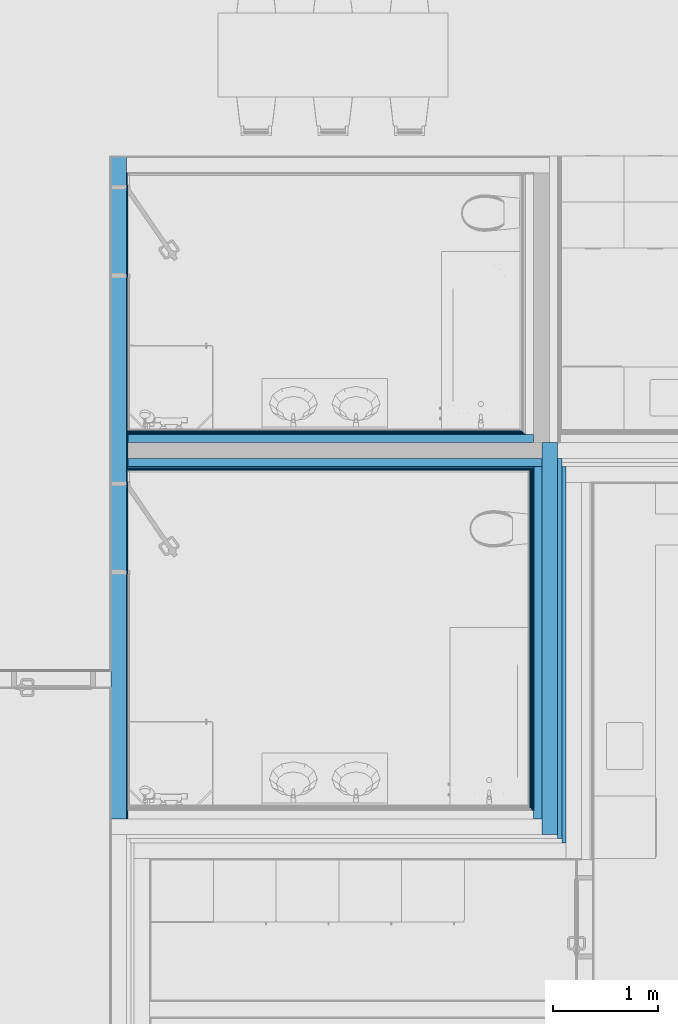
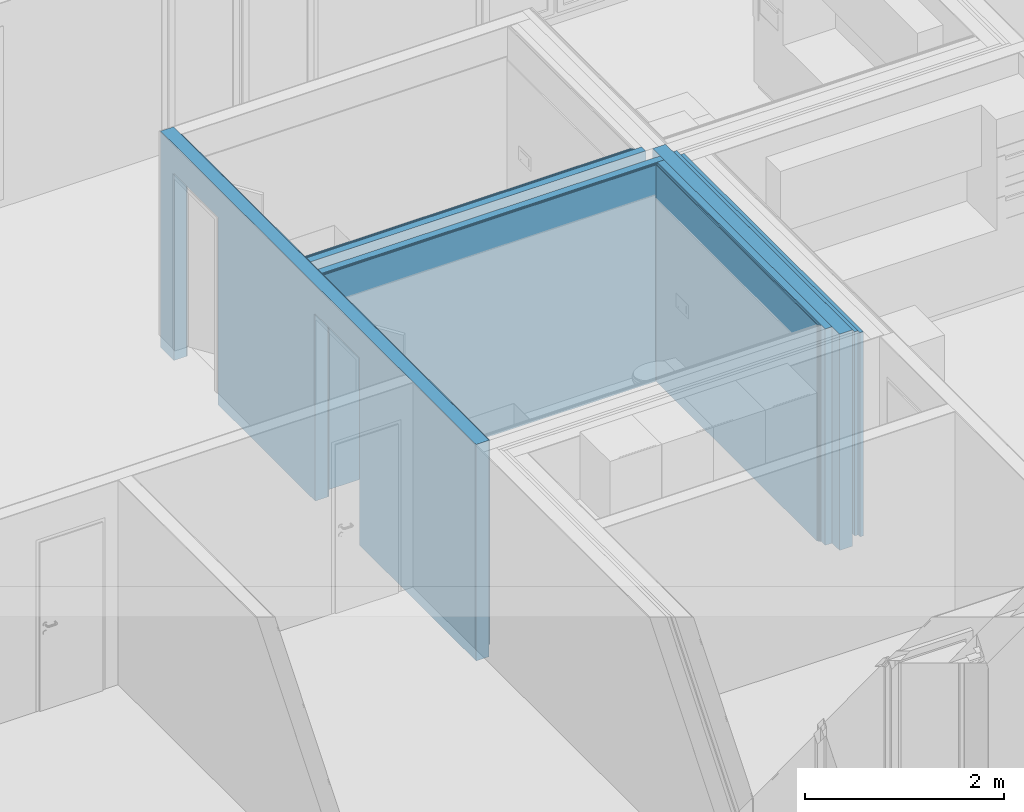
# One storey, part 8 of 34: 17 building element parts, 2 openings, 6 elements without a shape of their own.
"""IFC4 building model written with IfcOpenShell, lengths in millimetres."""

from ifc_helpers import new_model, entity, si_unit, converted_unit, derived_unit, direction, frame, origin_with_axes, place, context, subcontext, project, spatial, polygons, material, type_object, element, aggregate, save


model = new_model("IFC4")

# Units and contexts
model_context = context("Model", 3, precision=0.01, world=origin_with_axes(), true_north=direction((0.0, 1.0)))
body_context = subcontext(model_context, "Body", "Model", "MODEL_VIEW")
ifc_project = project(units=[si_unit("LENGTHUNIT", "METRE", prefix="MILLI"), si_unit("AREAUNIT", "SQUARE_METRE"), si_unit("VOLUMEUNIT", "CUBIC_METRE"), converted_unit("PLANEANGLEUNIT", "DEGREE", entity("IfcPlaneAngleMeasure", 0.0174532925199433), si_unit("PLANEANGLEUNIT", "RADIAN"), dimensions=[0, 0, 0, 0, 0, 0, 0]), converted_unit("TIMEUNIT", "Year", entity("IfcTimeMeasure", 31557600.0), si_unit("TIMEUNIT", "SECOND"), dimensions=[0, 0, 1, 0, 0, 0, 0]), si_unit("MASSUNIT", "GRAM", prefix="KILO"), si_unit("THERMODYNAMICTEMPERATUREUNIT", "DEGREE_CELSIUS"), si_unit("LUMINOUSINTENSITYUNIT", "LUMEN"), si_unit("ENERGYUNIT", "JOULE", prefix="MEGA"), derived_unit("THERMALCONDUCTANCEUNIT", [(si_unit("POWERUNIT", "WATT"), 1), (si_unit("LENGTHUNIT", "METRE"), -1), (si_unit("THERMODYNAMICTEMPERATUREUNIT", "KELVIN"), -1)]), derived_unit("SPECIFICHEATCAPACITYUNIT", [(si_unit("ENERGYUNIT", "JOULE"), 1), (si_unit("MASSUNIT", "GRAM", prefix="KILO"), -1), (si_unit("THERMODYNAMICTEMPERATUREUNIT", "KELVIN"), -1)]), derived_unit("MASSDENSITYUNIT", [(si_unit("MASSUNIT", "GRAM", prefix="KILO"), 1), (si_unit("VOLUMEUNIT", "CUBIC_METRE"), -1)])], contexts=[model_context])

# Site, building, storey
site_placement = place(None, origin_with_axes())
site = spatial("IfcSite", under=ifc_project, at=site_placement, Name="Gelände", CompositionType="ELEMENT")
building_placement = place(site_placement, origin_with_axes())
building = spatial("IfcBuilding", under=site, at=building_placement, Name="Gebäude", CompositionType="ELEMENT")
storey_placement = place(building_placement, frame((0.0, 0.0, 2900.0), z_axis=(0.0, 0.0, 1.0), x_axis=(1.0, 0.0, 0.0)))
storey = spatial("IfcBuildingStorey", under=building, at=storey_placement, Name="1.OG", CompositionType="ELEMENT", Elevation=2900.0)

# Wall, building element parts
wall_type_1 = type_object("IfcWallType", Name="Vorsatzschale 01 115", PredefinedType="NOTDEFINED")
wall_1_placement = place(storey_placement, frame((4130.995818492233, 31697.59728131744, 0.0), z_axis=(0.0, 0.0, 1.0), x_axis=(0.0, -1.0, 0.0)))
wall_1 = element("IfcWall", 1, at=wall_1_placement, inside=storey, type_object=wall_type_1, Name="Wand-014", PredefinedType="NOTDEFINED")
ifc_material_1 = material(Name="Gipskartonplatte GKP")
building_element_part_1_placement = place(wall_1_placement, origin_with_axes())
building_element_part_1 = element("IfcBuildingElementPart", 2, at=building_element_part_1_placement, material=ifc_material_1, Name="Gipskartonplatte GKP", PredefinedType="NOTDEFINED", context=body_context, shape_type="Tessellation", body=[
    polygons([(3253.223895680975, 22.50000000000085, 0.0), (-22.50000000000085, 22.49999999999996, 0.0), (-22.50000000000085, 35.00000000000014, 0.0), (3253.223895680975, 35.00000000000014, 0.0), (3253.223895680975, 22.50000000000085, 2649.999948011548), (-22.50000000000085, 22.49999999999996, 2649.999948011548), (-22.50000000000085, 35.00000000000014, 2649.999948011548), (3253.223895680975, 35.00000000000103, 2649.999948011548)], [[[1, 2, 3, 4]], [[5, 6, 2, 1]], [[3, 2, 6, 7]], [[4, 3, 7, 8]], [[4, 8, 5, 1]], [[8, 7, 6, 5]]], closed=True),
])
building_element_part_2_placement = place(wall_1_placement, origin_with_axes())
building_element_part_2 = element("IfcBuildingElementPart", 3, at=building_element_part_2_placement, material=ifc_material_1, Name="Gipskartonplatte GKP", PredefinedType="NOTDEFINED", context=body_context, shape_type="Tessellation", body=[
    polygons([(3240.723895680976, 10.00000000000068, 0.0), (-10.00000000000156, 9.999999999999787, 0.0), (-10.00000000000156, 22.49999999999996, 0.0), (3240.723895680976, 22.50000000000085, 0.0), (3240.723895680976, 10.00000000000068, 2649.999948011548), (-10.00000000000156, 9.999999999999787, 2649.999948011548), (-10.00000000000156, 22.49999999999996, 2649.999948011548), (3240.723895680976, 22.50000000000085, 2649.999948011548)], [[[1, 2, 3, 4]], [[5, 6, 2, 1]], [[3, 2, 6, 7]], [[4, 3, 7, 8]], [[4, 8, 5, 1]], [[8, 7, 6, 5]]], closed=True),
])
ifc_material_2 = material(Name="Kalkzementputz Aussen")
building_element_part_3_placement = place(wall_1_placement, origin_with_axes())
building_element_part_3 = element("IfcBuildingElementPart", 4, at=building_element_part_3_placement, material=ifc_material_2, Name="Kalkzementputz Aussen", PredefinedType="NOTDEFINED", context=body_context, shape_type="Tessellation", body=[
    polygons([(3228.223895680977, 0.0, 0.0), (0.0, 0.0, 0.0), (0.0, 9.999999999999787, 0.0), (3228.223895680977, 10.00000000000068, 0.0), (3228.223895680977, 0.0, 2649.999948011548), (0.0, 0.0, 2649.999948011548), (0.0, 9.999999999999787, 2649.999948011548), (3228.223895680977, 10.00000000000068, 2649.999948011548)], [[[1, 2, 3, 4]], [[5, 6, 2, 1]], [[3, 2, 6, 7]], [[4, 3, 7, 8]], [[4, 8, 5, 1]], [[8, 7, 6, 5]]], closed=True),
])

wall_2_placement = place(storey_placement, frame((4130.995818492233, 31697.59728131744, 0.0), z_axis=(0.0, 0.0, 1.0), x_axis=(-1.0, 0.0, 0.0)))
wall_2 = element("IfcWall", 5, at=wall_2_placement, inside=storey, type_object=wall_type_1, Name="Wand-014", PredefinedType="NOTDEFINED")
building_element_part_4_placement = place(wall_2_placement, origin_with_axes())
building_element_part_4 = element("IfcBuildingElementPart", 6, at=building_element_part_4_placement, material=ifc_material_2, Name="Kalkzementputz Aussen", PredefinedType="NOTDEFINED", context=body_context, shape_type="Tessellation", body=[
    polygons([(-9.999999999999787, -10.00000000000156, 2649.999948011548), (3848.000000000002, -10.00000000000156, 2649.999948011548), (3848.000000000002, 0.0, 2649.999948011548), (-9.999999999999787, 0.0, 2649.999948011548), (-9.999999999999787, -10.00000000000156, 0.0), (3848.000000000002, -10.00000000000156, 0.0), (3848.000000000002, 0.0, 0.0), (-9.999999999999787, 0.0, 0.0)], [[[1, 2, 3, 4]], [[5, 6, 2, 1]], [[3, 2, 6, 7]], [[4, 3, 7, 8]], [[5, 1, 4, 8]], [[8, 7, 6, 5]]], closed=True),
])
building_element_part_5_placement = place(wall_2_placement, origin_with_axes())
building_element_part_5 = element("IfcBuildingElementPart", 7, at=building_element_part_5_placement, material=ifc_material_1, Name="Gipskartonplatte GKP", PredefinedType="NOTDEFINED", context=body_context, shape_type="Tessellation", body=[
    polygons([(3848.000000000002, -22.50000000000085, 2649.999948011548), (3848.000000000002, -10.00000000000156, 2649.999948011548), (-22.49999999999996, -10.00000000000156, 2649.999948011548), (-22.49999999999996, -22.50000000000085, 2649.999948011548), (3848.000000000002, -22.50000000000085, 0.0), (3848.000000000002, -10.00000000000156, 0.0), (-22.49999999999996, -10.00000000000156, 0.0), (-22.49999999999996, -22.50000000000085, 0.0)], [[[1, 2, 3, 4]], [[1, 5, 6, 2]], [[2, 6, 7, 3]], [[4, 3, 7, 8]], [[5, 1, 4, 8]], [[6, 5, 8, 7]]], closed=True),
])
building_element_part_6_placement = place(wall_2_placement, origin_with_axes())
building_element_part_6 = element("IfcBuildingElementPart", 8, at=building_element_part_6_placement, material=ifc_material_1, Name="Gipskartonplatte GKP", PredefinedType="NOTDEFINED", context=body_context, shape_type="Tessellation", body=[
    polygons([(3848.000000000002, -35.00000000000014, 2649.999948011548), (3848.000000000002, -22.50000000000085, 2649.999948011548), (-35.00000000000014, -22.50000000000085, 2649.999948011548), (-35.00000000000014, -35.00000000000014, 2649.999948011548), (3848.000000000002, -35.00000000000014, 0.0), (3848.000000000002, -22.50000000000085, 0.0), (-35.00000000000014, -22.50000000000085, 0.0), (-35.00000000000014, -35.00000000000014, 0.0)], [[[1, 2, 3, 4]], [[1, 5, 6, 2]], [[2, 6, 7, 3]], [[4, 3, 7, 8]], [[5, 1, 4, 8]], [[6, 5, 8, 7]]], closed=True),
])
ifc_material_3 = material(Name="Ständer Konstruktion gedämmt")
building_element_part_7_placement = place(wall_2_placement, origin_with_axes())
building_element_part_7 = element("IfcBuildingElementPart", 9, at=building_element_part_7_placement, material=ifc_material_3, Name="Ständer Konstruktion gedämmt", PredefinedType="NOTDEFINED", context=body_context, shape_type="Tessellation", body=[
    polygons([(3848.000000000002, -114.9999999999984, 2649.999948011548), (3848.000000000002, -35.00000000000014, 2649.999948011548), (-115.0000000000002, -35.00000000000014, 2649.999948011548), (-115.0000000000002, -114.9999999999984, 2649.999948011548), (3848.000000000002, -115.000000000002, 0.0), (3848.000000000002, -35.00000000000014, 0.0), (-115.0000000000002, -35.00000000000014, 0.0), (-115.0000000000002, -114.9999999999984, 0.0)], [[[1, 2, 3, 4]], [[1, 5, 6, 2]], [[2, 6, 7, 3]], [[4, 3, 7, 8]], [[5, 1, 4, 8]], [[6, 5, 8, 7]]], closed=True),
])
aggregate(wall_2, [building_element_part_4, building_element_part_5, building_element_part_6, building_element_part_7])

# Building element part
building_element_part_8_placement = place(wall_1_placement, origin_with_axes())
building_element_part_8 = element("IfcBuildingElementPart", 10, at=building_element_part_8_placement, material=ifc_material_3, Name="Ständer Konstruktion gedämmt", PredefinedType="NOTDEFINED", context=body_context, shape_type="Tessellation", body=[
    polygons([(3333.223895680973, 35.00000000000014, 0.0), (-35.00000000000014, 35.00000000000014, 0.0), (-35.00000000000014, 115.0000000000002, 0.0), (3333.223895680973, 115.0000000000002, 0.0), (3333.223895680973, 35.00000000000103, 2649.999948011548), (-35.00000000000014, 35.00000000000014, 2649.999948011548), (-35.00000000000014, 115.0000000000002, 2649.999948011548), (3333.223895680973, 115.0000000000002, 2649.999948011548)], [[[1, 2, 3, 4]], [[5, 6, 2, 1]], [[3, 2, 6, 7]], [[4, 3, 7, 8]], [[4, 8, 5, 1]], [[8, 7, 6, 5]]], closed=True),
])

aggregate(wall_1, [building_element_part_1, building_element_part_2, building_element_part_3, building_element_part_8])

# Wall, building element parts
wall_type_2 = type_object("IfcWallType", Name="Trennwand Typ 02 - kein Putz 190", PredefinedType="NOTDEFINED")
wall_3_placement = place(storey_placement, frame((4245.995818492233, 31962.59728131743, 0.0), z_axis=(0.0, 0.0, 1.0), x_axis=(0.0, -1.0, 0.0)))
wall_3 = element("IfcWall", 11, at=wall_3_placement, inside=storey, type_object=wall_type_2, Name="Wand-015", PredefinedType="NOTDEFINED")
ifc_material_4 = material(Name="Dämmung Innen")
building_element_part_9_placement = place(wall_3_placement, origin_with_axes())
building_element_part_9 = element("IfcBuildingElementPart", 12, at=building_element_part_9_placement, material=ifc_material_4, Name="Dämmung Innen", PredefinedType="NOTDEFINED", context=body_context, shape_type="Tessellation", body=[
    polygons([(3788.223895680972, 190.0000000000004, 149.9999999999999), (149.9999999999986, 190.0000000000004, 149.9999999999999), (149.9999999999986, 190.0000000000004, 2649.999948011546), (3788.223895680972, 190.0000000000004, 2649.999948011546), (149.9999999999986, 150.0000000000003, 149.9999999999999), (3788.223895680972, 150.0000000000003, 149.9999999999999), (149.9999999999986, 150.0000000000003, 2649.999948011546), (3788.223895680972, 150.0000000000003, 2649.999948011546)], [[[1, 2, 3, 4]], [[5, 2, 1, 6]], [[2, 5, 7, 3]], [[8, 4, 3, 7]], [[6, 1, 4, 8]], [[5, 6, 8, 7]]], closed=True),
])
ifc_material_5 = material(Name="MW, Backstein")
building_element_part_10_placement = place(wall_3_placement, origin_with_axes())
building_element_part_10 = element("IfcBuildingElementPart", 13, at=building_element_part_10_placement, material=ifc_material_5, Name="MW, Backstein", PredefinedType="NOTDEFINED", context=body_context, shape_type="Tessellation", body=[
    polygons([(3748.223895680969, 150.0000000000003, 0.0), (3748.223895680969, 0.0, 0.0), (0.0, 0.0, 0.0), (0.0, 150.0000000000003, 0.0), (3748.223895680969, 150.0000000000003, 2649.999948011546), (3748.223895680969, 0.0, 2649.999948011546), (0.0, 0.0, 2649.999948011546), (0.0, 150.0000000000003, 2649.999948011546)], [[[1, 2, 3, 4]], [[2, 1, 5, 6]], [[2, 6, 7, 3]], [[8, 4, 3, 7]], [[5, 1, 4, 8]], [[6, 5, 8, 7]]], closed=True),
])
aggregate(wall_3, [building_element_part_9, building_element_part_10])

# Wall, building element part
wall_4_placement = place(storey_placement, frame((4625.995818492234, 31582.59728131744, 0.0), z_axis=(0.0, 0.0, 1.0), x_axis=(0.0, -1.0, 0.0)))
wall_4 = element("IfcWall", 14, at=wall_4_placement, inside=storey, type_object=wall_type_2, Name="Wand-015", PredefinedType="NOTDEFINED")
building_element_part_11_placement = place(wall_4_placement, origin_with_axes())
building_element_part_11 = element("IfcBuildingElementPart", 15, at=building_element_part_11_placement, material=ifc_material_4, Name="Dämmung Innen", PredefinedType="NOTDEFINED", context=body_context, shape_type="Tessellation", body=[
    polygons([(3448.223895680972, -149.9999999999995, 149.9999999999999), (-149.9999999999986, -150.0000000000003, 149.9999999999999), (-149.9999999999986, -149.9999999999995, 2649.999948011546), (3448.223895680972, -149.9999999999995, 2649.999948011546), (-149.9999999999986, -190.0000000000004, 149.9999999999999), (3448.223895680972, -189.9999999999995, 149.9999999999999), (-149.9999999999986, -189.9999999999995, 2649.999948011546), (3448.223895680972, -189.9999999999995, 2649.999948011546)], [[[1, 2, 3, 4]], [[5, 2, 1, 6]], [[2, 5, 7, 3]], [[8, 4, 3, 7]], [[6, 1, 4, 8]], [[5, 6, 8, 7]]], closed=True),
])
aggregate(wall_4, [building_element_part_11])

# Wall, openings, building element parts
wall_type_3 = type_object("IfcWallType", Name="Innenwand Typ 05 170", PredefinedType="NOTDEFINED")
wall_5_placement = place(storey_placement, frame((122.9958184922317, 34704.06370406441, 0.0), z_axis=(0.0, 0.0, 1.0), x_axis=(0.0, -1.0, 0.0)))
wall_5 = element("IfcWall", 16, at=wall_5_placement, inside=storey, type_object=wall_type_3, Name="Wand-014", PredefinedType="NOTDEFINED")
opening_1_placement = place(wall_5_placement, frame((719.9999999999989, 0.0, 149.9999999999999), z_axis=(0.0, 0.0, 1.0), x_axis=(1.0, 0.0, 0.0)))
element("IfcOpeningElement", 17, at=opening_1_placement, cuts=wall_5, Name="Tür-011", context=body_context, identifier="Reference", shape_type="Tessellation", body=[
    polygons([(445.0000000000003, 161.0000000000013, 2145.0), (445.0000000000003, 161.0000000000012, 0.0), (-445.0000000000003, 161.0000000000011, 0.0), (-445.0000000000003, 161.0000000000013, 2145.0), (445.0000000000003, -11.00000000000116, 2145.0), (445.0000000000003, -11.00000000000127, 0.0), (-445.0000000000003, -11.00000000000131, 0.0), (-445.0000000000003, -11.00000000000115, 2145.0)], [[[1, 2, 3, 4]], [[5, 6, 2, 1]], [[6, 7, 3, 2]], [[7, 8, 4, 3]], [[8, 5, 1, 4]], [[7, 6, 5, 8]]], closed=True),
])
opening_2_placement = place(wall_5_placement, frame((3556.466422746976, 0.0, 149.9999999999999), z_axis=(0.0, 0.0, 1.0), x_axis=(1.0, 0.0, 0.0)))
element("IfcOpeningElement", 18, at=opening_2_placement, cuts=wall_5, Name="Tür-011", context=body_context, identifier="Reference", shape_type="Tessellation", body=[
    polygons([(445.0000000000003, 161.0000000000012, 2145.0), (445.0000000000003, 161.0000000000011, 0.0), (-445.0000000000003, 161.000000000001, 0.0), (-445.0000000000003, 161.0000000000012, 2145.0), (445.0000000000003, -11.00000000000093, 2145.0), (445.0000000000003, -11.00000000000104, 0.0), (-445.0000000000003, -11.00000000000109, 0.0), (-445.0000000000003, -11.00000000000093, 2145.0)], [[[1, 2, 3, 4]], [[5, 6, 2, 1]], [[6, 7, 3, 2]], [[7, 8, 4, 3]], [[8, 5, 1, 4]], [[7, 6, 5, 8]]], closed=True),
])
building_element_part_12_placement = place(wall_5_placement, origin_with_axes())
building_element_part_12 = element("IfcBuildingElementPart", 19, at=building_element_part_12_placement, material=ifc_material_2, Name="Kalkzementputz Aussen", PredefinedType="NOTDEFINED", context=body_context, shape_type="Tessellation", body=[
    polygons([(1164.999999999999, 159.9999999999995, 149.9999999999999), (1164.999999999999, 159.9999999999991, 2295.0), (274.9999999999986, 159.9999999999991, 2295.0), (274.9999999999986, 160.0000000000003, 149.9999999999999), (274.9999999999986, 160.0000000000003, 0.0), (159.9999999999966, 160.0000000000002, 0.0), (159.9999999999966, 160.0000000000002, 2649.999948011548), (6339.690318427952, 160.0000000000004, 2649.999948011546), (6339.690318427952, 160.0000000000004, 149.9999999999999), (6224.690318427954, 159.9999999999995, 149.9999999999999), (6224.690318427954, 159.9999999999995, 0.0), (4001.466422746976, 159.9999999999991, 0.0), (4001.466422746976, 159.9999999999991, 149.9999999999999), (4001.466422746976, 159.9999999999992, 2295.0), (3111.466422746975, 159.9999999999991, 2295.0), (3111.466422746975, 159.999999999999, 149.9999999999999), (3111.466422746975, 159.999999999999, 0.0), (1164.999999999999, 159.9999999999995, 0.0), (1164.999999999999, 149.9999999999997, 149.9999999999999), (1164.999999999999, 150.0000000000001, 2295.0), (274.9999999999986, 150.0000000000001, 2295.0), (274.9999999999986, 149.9999999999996, 149.9999999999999), (274.9999999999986, 150.0000000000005, 0.0), (159.9999999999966, 150.0000000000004, 0.0), (159.9999999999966, 150.0000000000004, 2649.999948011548), (6339.690318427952, 149.9999999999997, 2649.999948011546), (6339.690318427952, 149.9999999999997, 149.9999999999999), (6224.690318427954, 149.9999999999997, 149.9999999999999), (6224.690318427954, 149.9999999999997, 0.0), (4001.466422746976, 149.9999999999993, 0.0), (4001.466422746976, 149.9999999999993, 149.9999999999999), (4001.466422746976, 150.0000000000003, 2295.0), (3111.466422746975, 150.0000000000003, 2295.0), (3111.466422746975, 149.9999999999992, 149.9999999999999), (3111.466422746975, 150.0000000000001, 0.0), (1164.999999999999, 149.9999999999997, 0.0)], [[[1, 2, 3, 4, 5, 6, 7, 8, 9, 10, 11, 12, 13, 14, 15, 16, 17, 18]], [[2, 1, 19, 20]], [[3, 2, 20, 21]], [[4, 3, 21, 22]], [[4, 22, 23, 5]], [[24, 6, 5, 23]], [[24, 25, 7, 6]], [[8, 7, 25, 26]], [[8, 26, 27, 9]], [[27, 28, 10, 9]], [[28, 29, 11, 10]], [[11, 29, 30, 12]], [[13, 12, 30, 31]], [[13, 31, 32, 14]], [[14, 32, 33, 15]], [[15, 33, 34, 16]], [[34, 35, 17, 16]], [[36, 18, 17, 35]], [[19, 1, 18, 36]], [[20, 19, 36, 35, 34, 33, 32, 31, 30, 29, 28, 27, 26, 25, 24, 23, 22, 21]]], closed=True),
])
building_element_part_13_placement = place(wall_5_placement, origin_with_axes())
building_element_part_13 = element("IfcBuildingElementPart", 20, at=building_element_part_13_placement, material=ifc_material_5, Name="MW, Backstein", PredefinedType="NOTDEFINED", context=body_context, shape_type="Tessellation", body=[
    polygons([(1164.999999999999, 149.9999999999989, 149.9999999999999), (1164.999999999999, 149.9999999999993, 2295.0), (274.9999999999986, 149.9999999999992, 2295.0), (274.9999999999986, 149.9999999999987, 149.9999999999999), (274.9999999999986, 150.0000000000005, 0.0), (9.99999999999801, 150.0000000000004, 0.0), (9.99999999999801, 150.0000000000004, 2649.999948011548), (6339.690318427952, 149.9999999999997, 2649.999948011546), (6339.690318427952, 149.9999999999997, 0.0), (4001.466422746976, 149.9999999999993, 0.0), (4001.466422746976, 149.9999999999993, 149.9999999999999), (4001.466422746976, 150.0000000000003, 2295.0), (3111.466422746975, 150.0000000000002, 2295.0), (3111.466422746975, 149.9999999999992, 149.9999999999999), (3111.466422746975, 150.0000000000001, 0.0), (1164.999999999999, 149.9999999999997, 0.0), (1164.999999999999, 0.0, 149.9999999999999), (1164.999999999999, 0.0, 2295.0), (274.9999999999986, 0.0, 2295.0), (274.9999999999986, 0.0, 149.9999999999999), (274.9999999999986, 0.0, 0.0), (9.99999999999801, 0.0, 0.0), (9.99999999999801, 0.0, 2649.999948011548), (6339.690318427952, 0.0, 2649.999948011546), (6339.690318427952, 0.0, 0.0), (4001.466422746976, 0.0, 0.0), (4001.466422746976, 0.0, 149.9999999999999), (4001.466422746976, 0.0, 2295.0), (3111.466422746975, 0.0, 2295.0), (3111.466422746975, 0.0, 149.9999999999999), (3111.466422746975, 0.0, 0.0), (1164.999999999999, 0.0, 0.0)], [[[1, 2, 3, 4, 5, 6, 7, 8, 9, 10, 11, 12, 13, 14, 15, 16]], [[2, 1, 17, 18]], [[3, 2, 18, 19]], [[4, 3, 19, 20]], [[4, 20, 21, 5]], [[22, 6, 5, 21]], [[22, 23, 7, 6]], [[8, 7, 23, 24]], [[8, 24, 25, 9]], [[9, 25, 26, 10]], [[11, 10, 26, 27]], [[11, 27, 28, 12]], [[12, 28, 29, 13]], [[13, 29, 30, 14]], [[30, 31, 15, 14]], [[32, 16, 15, 31]], [[17, 1, 16, 32]], [[18, 17, 32, 31, 30, 29, 28, 27, 26, 25, 24, 23, 22, 21, 20, 19]]], closed=True),
])
aggregate(wall_5, [building_element_part_12, building_element_part_13])

# Wall, building element parts
wall_6_placement = place(storey_placement, frame((4050.773549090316, 32077.59728131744, 0.0), z_axis=(0.0, 0.0, 1.0), x_axis=(-1.0, 0.0, 0.0)))
wall_6 = element("IfcWall", 21, at=wall_6_placement, inside=storey, type_object=wall_type_1, Name="Wand-014", PredefinedType="NOTDEFINED")
building_element_part_14_placement = place(wall_6_placement, origin_with_axes())
building_element_part_14 = element("IfcBuildingElementPart", 22, at=building_element_part_14_placement, material=ifc_material_3, Name="Ständer Konstruktion gedämmt", PredefinedType="NOTDEFINED", context=body_context, shape_type="Tessellation", body=[
    polygons([(3767.777730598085, 114.9999999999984, 0.0), (3767.777730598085, 34.99999999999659, 0.0), (-115.0000000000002, 34.99999999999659, 0.0), (-115.0000000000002, 114.9999999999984, 0.0), (3767.777730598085, 114.9999999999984, 2649.999948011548), (3767.777730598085, 34.99999999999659, 2649.999948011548), (-115.0000000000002, 35.00000000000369, 2649.999948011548), (-115.0000000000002, 114.9999999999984, 2649.999948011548)], [[[1, 2, 3, 4]], [[1, 5, 6, 2]], [[2, 6, 7, 3]], [[4, 3, 7, 8]], [[5, 1, 4, 8]], [[6, 5, 8, 7]]], closed=True),
])
building_element_part_15_placement = place(wall_6_placement, origin_with_axes())
building_element_part_15 = element("IfcBuildingElementPart", 23, at=building_element_part_15_placement, material=ifc_material_1, Name="Gipskartonplatte GKP", PredefinedType="NOTDEFINED", context=body_context, shape_type="Tessellation", body=[
    polygons([(3767.777730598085, 34.99999999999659, 0.0), (3767.777730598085, 22.50000000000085, 0.0), (-35.00000000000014, 22.50000000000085, 0.0), (-35.00000000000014, 34.99999999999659, 0.0), (3767.777730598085, 34.99999999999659, 2649.999948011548), (3767.777730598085, 22.50000000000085, 2649.999948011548), (-35.00000000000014, 22.50000000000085, 2649.999948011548), (-35.00000000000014, 35.00000000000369, 2649.999948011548)], [[[1, 2, 3, 4]], [[1, 5, 6, 2]], [[2, 6, 7, 3]], [[4, 3, 7, 8]], [[5, 1, 4, 8]], [[6, 5, 8, 7]]], closed=True),
])
building_element_part_16_placement = place(wall_6_placement, origin_with_axes())
building_element_part_16 = element("IfcBuildingElementPart", 24, at=building_element_part_16_placement, material=ifc_material_1, Name="Gipskartonplatte GKP", PredefinedType="NOTDEFINED", context=body_context, shape_type="Tessellation", body=[
    polygons([(3767.777730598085, 22.50000000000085, 0.0), (3767.777730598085, 9.99999999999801, 0.0), (-22.49999999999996, 9.99999999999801, 0.0), (-22.49999999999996, 22.50000000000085, 0.0), (3767.777730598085, 22.50000000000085, 2649.999948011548), (3767.777730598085, 9.99999999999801, 2649.999948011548), (-22.49999999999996, 9.99999999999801, 2649.999948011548), (-22.49999999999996, 22.50000000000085, 2649.999948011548)], [[[1, 2, 3, 4]], [[1, 5, 6, 2]], [[2, 6, 7, 3]], [[4, 3, 7, 8]], [[5, 1, 4, 8]], [[6, 5, 8, 7]]], closed=True),
])
building_element_part_17_placement = place(wall_6_placement, origin_with_axes())
building_element_part_17 = element("IfcBuildingElementPart", 25, at=building_element_part_17_placement, material=ifc_material_2, Name="Kalkzementputz Aussen", PredefinedType="NOTDEFINED", context=body_context, shape_type="Tessellation", body=[
    polygons([(-9.999999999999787, 9.99999999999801, 149.9999999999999), (-9.999999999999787, 0.0, 149.9999999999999), (-9.999999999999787, 0.0, 2649.999948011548), (-9.999999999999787, 9.99999999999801, 2649.999948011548), (0.0, 0.0, 149.9999999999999), (0.0, 9.99999999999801, 149.9999999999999), (0.0, 0.0, 0.0), (3767.777730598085, 0.0, 0.0), (3767.777730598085, 0.0, 2649.999948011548), (3767.777730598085, 9.99999999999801, 2649.999948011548), (3767.777730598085, 9.99999999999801, 0.0), (0.0, 9.99999999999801, 0.0)], [[[1, 2, 3, 4]], [[5, 2, 1, 6]], [[5, 7, 8, 9, 3, 2]], [[3, 9, 10, 4]], [[6, 1, 4, 10, 11, 12]], [[5, 6, 12, 7]], [[7, 12, 11, 8]], [[8, 11, 10, 9]]], closed=True),
])
aggregate(wall_6, [building_element_part_14, building_element_part_15, building_element_part_16, building_element_part_17])

save(model, "model.ifc")
